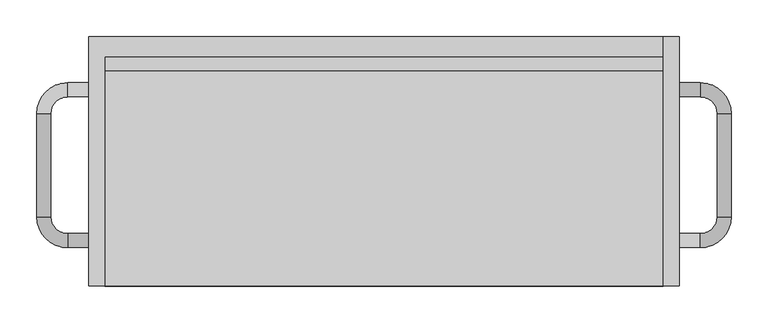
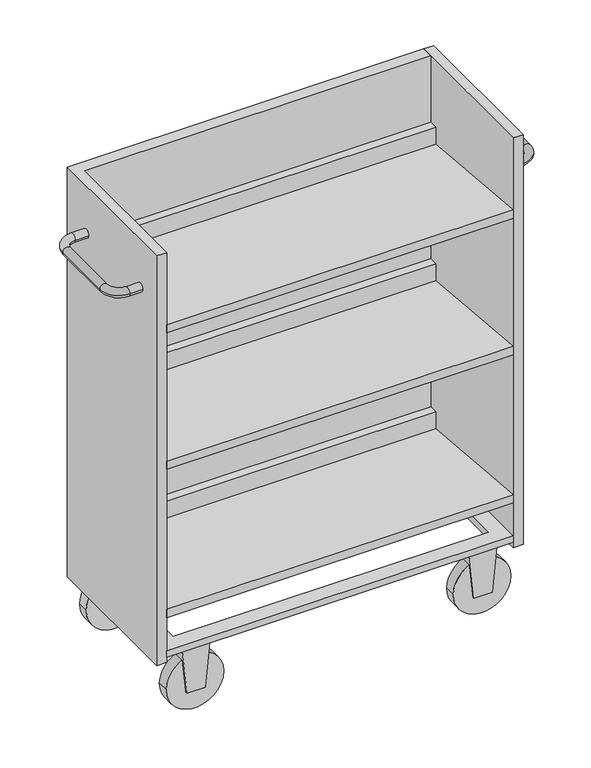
"""IFC4 building model written with IfcOpenShell, lengths in millimetres: furniture geometry, BK Library - Exlibris - Book Trolley Medium : BK Library - Exlibris - Book Trolley Medium."""

from ifc_helpers import new_model, si_unit, point, frame, frame_2d, origin, place, context, project, spatial, polyline, circle_curve, ellipse_curve, trimmed, segment, composite_curve, outline, extrude, faceted_brep, source, transform, mapped, element, save
from ifc_brep_helpers import plane_surface, cylinder_surface, revolved_surface, advanced_brep


def furniture_5349deb8(model_context):
    return source(origin(), model_context, "Body", "SolidModel", [
        extrude(outline(polyline([(-170.0000004, 235.2662928), (-170.0000004, 254.3381826), (123.9999896, 228.739766), (123.9999896, 268.0135567), (142.9999896, 268.0135567), (142.9999896, 208.0135567), (-170.0000004, 235.2662928)])), frame((-379.9999958, 0.0, 0.0), z_axis=(1.0, 0.0, 0.0), x_axis=(0.0, 1.0, 0.0)), (0.0, 0.0, 1.0), 759.9999767),
        extrude(outline(polyline([(-170.0000004, 895.2679976), (-170.0000004, 914.3405715), (123.9999896, 888.6189123), (123.9999896, 927.8840534), (142.9999896, 927.8840534), (142.9999896, 867.8840534), (-170.0000004, 895.2679976)])), frame((-379.9999958, 0.0, 0.0), z_axis=(1.0, 0.0, 0.0), x_axis=(0.0, 1.0, 0.0)), (0.0, 0.0, 1.0), 759.9999767),
        extrude(outline(polyline([(-170.0000004, 578.9679728), (-170.0000004, 598.0405467), (123.9999896, 572.3188875), (123.9999896, 611.5840286), (142.9999896, 611.5840286), (142.9999896, 551.5840286), (-170.0000004, 578.9679728)])), frame((-379.9999958, 0.0, 0.0), z_axis=(1.0, 0.0, 0.0), x_axis=(0.0, 1.0, 0.0)), (0.0, 0.0, 1.0), 759.9999767),
        extrude(outline(polyline([(-379.9999958, -170.0000004), (-379.9999958, 169.9999984), (379.9999958, 169.9999984), (379.9999958, -170.0000004), (-379.9999958, -170.0000004)]), holes=[polyline([(345.0000098, 135.0), (-345.0, 135.0), (-345.0, -135.000002), (345.0000098, -135.000002), (345.0000098, 135.0)])]), frame((0.0, 0.0, 143.5246151), z_axis=(0.0, 0.0, 1.0), x_axis=(1.0, 0.0, 0.0)), (0.0, 0.0, 1.0), 14.9999928),
        advanced_brep(
        [(401.9999994, 88.0399554, 972.0246135), (401.9999994, 107.0399554, 972.0246135), (430.8160051, 107.0399554, 972.0246135), (430.8160051, 88.0399554, 972.0246135), (453.8160051, 65.0399554, 972.0246135), (472.8160051, 65.0399554, 972.0246135), (472.8160051, -75.5438715, 972.0246135), (453.8160051, -75.5438715, 972.0246135), (430.8622357, -98.4976409, 972.0246135), (430.8622357, -117.4976409, 972.0246135), (401.9999994, -98.4976409, 972.0246135), (401.9999994, -117.4976409, 972.0246135)],
        [
            (0, 1, circle_curve(frame((401.9999994, 97.5399554, 972.0246135), z_axis=(-1.0, 0.0, 0.0), x_axis=(0.0, 1.0, 0.0)), 9.5)),
            (1, 0, circle_curve(frame((401.9999994, 97.5399554, 972.0246135), z_axis=(-1.0, 0.0, 0.0), x_axis=(0.0, 1.0, 0.0)), 9.5)),
            (1, 2),
            (2, 3, circle_curve(frame((430.8160051, 97.5399554, 972.0246135), z_axis=(-1.0, 0.0, 0.0), x_axis=(0.0, 1.0, 0.0)), 9.5)),
            (3, 0),
            (3, 2, circle_curve(frame((430.8160051, 97.5399554, 972.0246135), z_axis=(-1.0, 0.0, 0.0), x_axis=(0.0, 1.0, 0.0)), 9.5)),
            (4, 3, circle_curve(frame((430.8160051, 65.0399554, 972.0246135), z_axis=(0.0, 0.0, 1.0), x_axis=(0.0, 1.0, 0.0)), 23.0)),
            (2, 5, circle_curve(frame((430.8160051, 65.0399554, 972.0246135), z_axis=(0.0, 0.0, -1.0), x_axis=(0.0, 1.0, 0.0)), 42.0)),
            (5, 4, circle_curve(frame((463.3160051, 65.0399554, 972.0246135), z_axis=(0.0, 1.0, 0.0), x_axis=(1.0, 0.0, 0.0)), 9.5)),
            (4, 5, circle_curve(frame((463.3160051, 65.0399554, 972.0246135), z_axis=(0.0, 1.0, 0.0), x_axis=(1.0, 0.0, 0.0)), 9.5)),
            (5, 6),
            (6, 7, circle_curve(frame((463.3160051, -75.5438715, 972.0246135), z_axis=(0.0, 1.0, 0.0), x_axis=(1.0, 0.0, 0.0)), 9.5)),
            (7, 4),
            (7, 6, circle_curve(frame((463.3160051, -75.5438715, 972.0246135), z_axis=(0.0, 1.0, 0.0), x_axis=(1.0, 0.0, 0.0)), 9.5)),
            (8, 7, circle_curve(frame((430.8622357, -75.5438715, 972.0246135), z_axis=(0.0, 0.0, 1.0), x_axis=(1.0, 0.0, 0.0)), 22.9537695)),
            (6, 9, circle_curve(frame((430.8622357, -75.5438715, 972.0246135), z_axis=(0.0, 0.0, -1.0), x_axis=(1.0, 0.0, 0.0)), 41.9537695)),
            (9, 8, circle_curve(frame((430.8622357, -107.9976409, 972.0246135), z_axis=(1.0, 0.0, 0.0), x_axis=(0.0, -1.0, 0.0)), 9.5)),
            (8, 9, circle_curve(frame((430.8622357, -107.9976409, 972.0246135), z_axis=(1.0, 0.0, 0.0), x_axis=(0.0, -1.0, 0.0)), 9.5)),
            (10, 11, circle_curve(frame((401.9999994, -107.9976409, 972.0246135), z_axis=(-1.0, 0.0, 0.0), x_axis=(0.0, -1.0, 0.0)), 9.5)),
            (11, 10, circle_curve(frame((401.9999994, -107.9976409, 972.0246135), z_axis=(-1.0, 0.0, 0.0), x_axis=(0.0, -1.0, 0.0)), 9.5)),
            (9, 11),
            (10, 8),
        ],
        [
            plane_surface(frame((401.9999994, 88.0399554, 45.0237324), z_axis=(-1.0, 0.0, 0.0), x_axis=(0.0, 0.0, 1.0))),
            cylinder_surface(frame((401.9999994, 97.5399554, 972.0246135), z_axis=(-1.0, 0.0, 0.0), x_axis=(0.0, 1.0, 0.0)), 9.5),
            revolved_surface(trimmed(ellipse_curve(frame((430.8160051, 97.5399554, 972.0246135), z_axis=(-1.0, 0.0, 0.0), x_axis=(0.0, 1.0, 0.0)), 9.5, 9.5), [point((430.8160051, 107.0399554, 972.0246135))], [point((430.8160051, 88.0399554, 972.0246135))], True, "CARTESIAN"), (430.8160051, 65.0399554, 45.0237324), (0.0, 0.0, -1.0)),
            revolved_surface(trimmed(ellipse_curve(frame((430.8160051, 97.5399554, 972.0246135), z_axis=(-1.0, 0.0, 0.0), x_axis=(0.0, 1.0, 0.0)), 9.5, 9.5), [point((430.8160051, 88.0399554, 972.0246135))], [point((430.8160051, 107.0399554, 972.0246135))], True, "CARTESIAN"), (430.8160051, 65.0399554, 45.0237324), (0.0, 0.0, -1.0)),
            cylinder_surface(frame((463.3160051, 65.0399554, 972.0246135), z_axis=(0.0, 1.0, 0.0), x_axis=(1.0, 0.0, 0.0)), 9.5),
            revolved_surface(trimmed(ellipse_curve(frame((463.3160051, -75.5438715, 972.0246135), z_axis=(0.0, 1.0, 0.0), x_axis=(1.0, 0.0, 0.0)), 9.5, 9.5), [point((472.8160051, -75.5438715, 972.0246135))], [point((453.8160051, -75.5438715, 972.0246135))], True, "CARTESIAN"), (430.8622357, -75.5438715, 45.0237324), (0.0, 0.0, -1.0)),
            revolved_surface(trimmed(ellipse_curve(frame((463.3160051, -75.5438715, 972.0246135), z_axis=(0.0, 1.0, 0.0), x_axis=(1.0, 0.0, 0.0)), 9.5, 9.5), [point((453.8160051, -75.5438715, 972.0246135))], [point((472.8160051, -75.5438715, 972.0246135))], True, "CARTESIAN"), (430.8622357, -75.5438715, 45.0237324), (0.0, 0.0, -1.0)),
            plane_surface(frame((401.9999994, -98.4976409, 45.0237324), z_axis=(-1.0, 0.0, 0.0), x_axis=(0.0, 0.0, 1.0))),
            cylinder_surface(frame((430.8622357, -107.9976409, 972.0246135), z_axis=(1.0, 0.0, 0.0), x_axis=(0.0, -1.0, 0.0)), 9.5),
        ],
        [
            (0, [[1, 2]]),
            (1, [[-2, 3, 4, 5]]),
            (1, [[-1, -5, 6, -3]]),
            (2, [[7, -4, 8, 9]]),
            (3, [[-8, -6, -7, 10]]),
            (4, [[-9, 11, 12, 13]]),
            (4, [[-10, -13, 14, -11]]),
            (5, [[15, -12, 16, 17]]),
            (6, [[-16, -14, -15, 18]]),
            (7, [[19, 20]]),
            (8, [[-17, 21, -19, 22]]),
            (8, [[-18, -22, -20, -21]]),
        ],
    ),
        advanced_brep(
        [(-401.9999994, 107.0399554, 972.0246135), (-401.9999994, 88.0399554, 972.0246135), (-430.8160051, 107.0399554, 972.0246135), (-430.8160051, 88.0399554, 972.0246135), (-453.8160051, 65.0399554, 972.0246135), (-472.8160051, 65.0399554, 972.0246135), (-472.8160051, -75.5438715, 972.0246135), (-453.8160051, -75.5438715, 972.0246135), (-430.8622357, -98.4976409, 972.0246135), (-430.8622357, -117.4976409, 972.0246135), (-401.9999994, -117.4976409, 972.0246135), (-401.9999994, -98.4976409, 972.0246135)],
        [
            (0, 1, circle_curve(frame((-401.9999994, 97.5399554, 972.0246135), z_axis=(1.0, 0.0, 0.0), x_axis=(0.0, -1.0, 0.0)), 9.5)),
            (1, 0, circle_curve(frame((-401.9999994, 97.5399554, 972.0246135), z_axis=(1.0, 0.0, 0.0), x_axis=(0.0, -1.0, 0.0)), 9.5)),
            (0, 2),
            (2, 3, circle_curve(frame((-430.8160051, 97.5399554, 972.0246135), z_axis=(1.0, 0.0, 0.0), x_axis=(0.0, -1.0, 0.0)), 9.5)),
            (3, 1),
            (3, 2, circle_curve(frame((-430.8160051, 97.5399554, 972.0246135), z_axis=(1.0, 0.0, 0.0), x_axis=(0.0, -1.0, 0.0)), 9.5)),
            (4, 3, circle_curve(frame((-430.8160051, 65.0399554, 972.0246135), z_axis=(0.0, 0.0, -1.0), x_axis=(0.0, 1.0, 0.0)), 23.0)),
            (2, 5, circle_curve(frame((-430.8160051, 65.0399554, 972.0246135), z_axis=(0.0, 0.0, 1.0), x_axis=(0.0, 1.0, 0.0)), 42.0)),
            (5, 4, circle_curve(frame((-463.3160051, 65.0399554, 972.0246135), z_axis=(0.0, 1.0, 0.0), x_axis=(1.0, 0.0, 0.0)), 9.5)),
            (4, 5, circle_curve(frame((-463.3160051, 65.0399554, 972.0246135), z_axis=(0.0, 1.0, 0.0), x_axis=(1.0, 0.0, 0.0)), 9.5)),
            (5, 6),
            (6, 7, circle_curve(frame((-463.3160051, -75.5438715, 972.0246135), z_axis=(0.0, 1.0, 0.0), x_axis=(1.0, 0.0, 0.0)), 9.5)),
            (7, 4),
            (7, 6, circle_curve(frame((-463.3160051, -75.5438715, 972.0246135), z_axis=(0.0, 1.0, 0.0), x_axis=(1.0, 0.0, 0.0)), 9.5)),
            (8, 7, circle_curve(frame((-430.8622357, -75.5438715, 972.0246135), z_axis=(0.0, 0.0, -1.0), x_axis=(-1.0, 0.0, 0.0)), 22.9537695)),
            (6, 9, circle_curve(frame((-430.8622357, -75.5438715, 972.0246135), z_axis=(0.0, 0.0, 1.0), x_axis=(-1.0, 0.0, 0.0)), 41.9537695)),
            (9, 8, circle_curve(frame((-430.8622357, -107.9976409, 972.0246135), z_axis=(-1.0, 0.0, 0.0), x_axis=(0.0, 1.0, 0.0)), 9.5)),
            (8, 9, circle_curve(frame((-430.8622357, -107.9976409, 972.0246135), z_axis=(-1.0, 0.0, 0.0), x_axis=(0.0, 1.0, 0.0)), 9.5)),
            (10, 11, circle_curve(frame((-401.9999994, -107.9976409, 972.0246135), z_axis=(1.0, 0.0, 0.0), x_axis=(0.0, 1.0, 0.0)), 9.5)),
            (11, 10, circle_curve(frame((-401.9999994, -107.9976409, 972.0246135), z_axis=(1.0, 0.0, 0.0), x_axis=(0.0, 1.0, 0.0)), 9.5)),
            (9, 10),
            (11, 8),
        ],
        [
            plane_surface(frame((-401.9999994, 88.0399554, 45.0237324), z_axis=(1.0, 0.0, 0.0), x_axis=(0.0, 0.0, 1.0))),
            cylinder_surface(frame((-401.9999994, 97.5399554, 972.0246135), z_axis=(1.0, 0.0, 0.0), x_axis=(0.0, -1.0, 0.0)), 9.5),
            revolved_surface(trimmed(ellipse_curve(frame((-430.8160051, 97.5399554, 972.0246135), z_axis=(1.0, 0.0, 0.0), x_axis=(0.0, -1.0, 0.0)), 9.5, 9.5), [point((-430.8160051, 107.0399554, 972.0246135))], [point((-430.8160051, 88.0399554, 972.0246135))], True, "CARTESIAN"), (-430.8160051, 65.0399554, 45.0237324), (0.0, 0.0, 1.0)),
            revolved_surface(trimmed(ellipse_curve(frame((-430.8160051, 97.5399554, 972.0246135), z_axis=(1.0, 0.0, 0.0), x_axis=(0.0, -1.0, 0.0)), 9.5, 9.5), [point((-430.8160051, 88.0399554, 972.0246135))], [point((-430.8160051, 107.0399554, 972.0246135))], True, "CARTESIAN"), (-430.8160051, 65.0399554, 45.0237324), (0.0, 0.0, 1.0)),
            cylinder_surface(frame((-463.3160051, 65.0399554, 972.0246135), z_axis=(0.0, 1.0, 0.0), x_axis=(1.0, 0.0, 0.0)), 9.5),
            revolved_surface(trimmed(ellipse_curve(frame((-463.3160051, -75.5438715, 972.0246135), z_axis=(0.0, 1.0, 0.0), x_axis=(1.0, 0.0, 0.0)), 9.5, 9.5), [point((-472.8160051, -75.5438715, 972.0246135))], [point((-453.8160051, -75.5438715, 972.0246135))], True, "CARTESIAN"), (-430.8622357, -75.5438715, 45.0237324), (0.0, 0.0, 1.0)),
            revolved_surface(trimmed(ellipse_curve(frame((-463.3160051, -75.5438715, 972.0246135), z_axis=(0.0, 1.0, 0.0), x_axis=(1.0, 0.0, 0.0)), 9.5, 9.5), [point((-453.8160051, -75.5438715, 972.0246135))], [point((-472.8160051, -75.5438715, 972.0246135))], True, "CARTESIAN"), (-430.8622357, -75.5438715, 45.0237324), (0.0, 0.0, 1.0)),
            plane_surface(frame((-401.9999994, -98.4976409, 45.0237324), z_axis=(1.0, 0.0, 0.0), x_axis=(0.0, 0.0, 1.0))),
            cylinder_surface(frame((-430.8622357, -107.9976409, 972.0246135), z_axis=(-1.0, 0.0, 0.0), x_axis=(0.0, 1.0, 0.0)), 9.5),
        ],
        [
            (0, [[1, 2]]),
            (1, [[-1, 3, 4, 5]]),
            (1, [[-2, -5, 6, -3]]),
            (2, [[7, -4, 8, 9]]),
            (3, [[-8, -6, -7, 10]]),
            (4, [[-9, 11, 12, 13]]),
            (4, [[-10, -13, 14, -11]]),
            (5, [[15, -12, 16, 17]]),
            (6, [[-16, -14, -15, 18]]),
            (7, [[19, 20]]),
            (8, [[-17, 21, -20, 22]]),
            (8, [[-18, -22, -19, -21]]),
        ],
    ),
        extrude(outline(polyline([(379.9999958, -170.0000004), (379.9999958, 169.9999984), (401.9999994, 169.9999984), (401.9999994, -170.0000004), (379.9999958, -170.0000004)])), frame((0.0, 0.0, 131.5246135), z_axis=(0.0, 0.0, 1.0), x_axis=(1.0, 0.0, 0.0)), (0.0, 0.0, 1.0), 950.0000072),
        faceted_brep([(-379.9999958, -170.0000004, 131.5246135), (-379.9999958, 169.9999984, 131.5246135), (-379.9999958, 169.9999984, 208.0135567), (-379.9999958, 142.9999896, 208.0135567), (-379.9999958, 142.9999896, 1081.5246208), (-379.9999958, -170.0000004, 1081.5246208), (-401.9999994, -170.0000004, 131.5246135), (-401.9999994, -170.0000004, 1081.5246208), (-401.9999994, 169.9999984, 1081.5246208), (-401.9999994, 169.9999984, 131.5246135), (379.999981, 169.9999984, 1081.5246099), (379.999981, 169.9999984, 208.0135567), (379.999981, 142.9999896, 1081.5246208), (379.999981, 142.9999896, 208.0135567)], [[[0, 1, 2, 3, 4, 5]], [[6, 7, 8, 9]], [[1, 0, 6, 9]], [[9, 8, 10, 11, 2, 1]], [[10, 8, 7, 5, 4, 12]], [[0, 5, 7, 6]], [[10, 12, 13, 11]], [[11, 13, 3, 2]], [[13, 12, 4, 3]]]),
        extrude(outline(polyline([(143.5246151, 284.7814982), (43.1604333, 294.8179132), (43.1604333, 334.9635823), (143.5246151, 344.9999973), (143.5246151, 284.7814982)])), frame((0.0, -168.1870887, 0.0), z_axis=(0.0, 1.0, 0.0), x_axis=(0.0, 0.0, 1.0)), (0.0, 0.0, 1.0), 33.1870868),
        extrude(outline(composite_curve([segment(trimmed(circle_curve(frame_2d((63.2332701, 314.8907432)), 63.2332701), [point((63.2332701, 251.6574731))], [point((63.2332701, 378.1240133))], False, "CARTESIAN"), True, "CONTINUOUS"), segment(trimmed(circle_curve(frame_2d((63.2332701, 314.8907432)), 63.2332701), [point((63.2332701, 378.1240133))], [point((63.2332701, 251.6574731))], False, "CARTESIAN"), True, "CONTINUOUS")], self_intersect=False)), frame((0.0, -164.0387046, 0.0), z_axis=(0.0, 1.0, 0.0), x_axis=(0.0, 0.0, 1.0)), (0.0, 0.0, 1.0), 24.8903185),
        extrude(outline(polyline([(143.5246151, 284.7814982), (43.1604333, 294.8179132), (43.1604333, 334.9635823), (143.5246151, 344.9999973), (143.5246151, 284.7814982)])), frame((0.0, 135.000002, 0.0), z_axis=(0.0, 1.0, 0.0), x_axis=(0.0, 0.0, 1.0)), (0.0, 0.0, 1.0), 33.1870868),
        extrude(outline(composite_curve([segment(trimmed(circle_curve(frame_2d((63.2332701, 314.8907432)), 63.2332701), [point((63.2332701, 251.6574731))], [point((63.2332701, 378.1240133))], False, "CARTESIAN"), True, "CONTINUOUS"), segment(trimmed(circle_curve(frame_2d((63.2332701, 314.8907432)), 63.2332701), [point((63.2332701, 378.1240133))], [point((63.2332701, 251.6574731))], False, "CARTESIAN"), True, "CONTINUOUS")], self_intersect=False)), frame((0.0, 139.1483861, 0.0), z_axis=(0.0, 1.0, 0.0), x_axis=(0.0, 0.0, 1.0)), (0.0, 0.0, 1.0), 24.8903185),
        extrude(outline(polyline([(143.5246151, -284.7814982), (143.5246151, -344.9999973), (43.1604333, -334.9635823), (43.1604333, -294.8179132), (143.5246151, -284.7814982)])), frame((0.0, 135.000002, 0.0), z_axis=(0.0, 1.0, 0.0), x_axis=(0.0, 0.0, 1.0)), (0.0, 0.0, 1.0), 33.1870868),
        extrude(outline(composite_curve([segment(trimmed(circle_curve(frame_2d((63.2332701, -314.8907432)), 63.2332701), [point((63.2332701, -251.6574731))], [point((63.2332701, -378.1240133))], False, "CARTESIAN"), True, "CONTINUOUS"), segment(trimmed(circle_curve(frame_2d((63.2332701, -314.8907432)), 63.2332701), [point((63.2332701, -378.1240133))], [point((63.2332701, -251.6574731))], False, "CARTESIAN"), True, "CONTINUOUS")], self_intersect=False)), frame((0.0, 139.1483861, 0.0), z_axis=(0.0, 1.0, 0.0), x_axis=(0.0, 0.0, 1.0)), (0.0, 0.0, 1.0), 24.8903185),
        extrude(outline(polyline([(143.5246151, -284.7814982), (143.5246151, -344.9999973), (43.1604333, -334.9635823), (43.1604333, -294.8179132), (143.5246151, -284.7814982)])), frame((0.0, -168.1870887, 0.0), z_axis=(0.0, 1.0, 0.0), x_axis=(0.0, 0.0, 1.0)), (0.0, 0.0, 1.0), 33.1870868),
        extrude(outline(composite_curve([segment(trimmed(circle_curve(frame_2d((63.2332701, -314.8907432)), 63.2332701), [point((63.2332701, -251.6574731))], [point((63.2332701, -378.1240133))], False, "CARTESIAN"), True, "CONTINUOUS"), segment(trimmed(circle_curve(frame_2d((63.2332701, -314.8907432)), 63.2332701), [point((63.2332701, -378.1240133))], [point((63.2332701, -251.6574731))], False, "CARTESIAN"), True, "CONTINUOUS")], self_intersect=False)), frame((0.0, -164.0387046, 0.0), z_axis=(0.0, 1.0, 0.0), x_axis=(0.0, 0.0, 1.0)), (0.0, 0.0, 1.0), 24.8903185),
    ])


if __name__ == "__main__":
    model = new_model("IFC4")
    model_context = context("Model", 3, world=origin())
    ifc_project = project(units=[si_unit("LENGTHUNIT", "METRE", prefix="MILLI")], contexts=[model_context])
    site = spatial("IfcSite", under=ifc_project)
    building = spatial("IfcBuilding", under=site)
    placement = place(None, origin())
    furniture_shape = furniture_5349deb8(model_context)
    element("IfcFurniture", 1, ObjectType="BK Library - Exlibris - Book Trolley Medium : BK Library - Exlibris - Book Trolley Medium", at=placement, inside=building, context=model_context, shape_type="MappedRepresentation", body=[
        mapped(furniture_shape, transform((0.0, 0.0, 0.0), x_axis=(1.0, 0.0, 0.0), y_axis=(0.0, 1.0, 0.0), z_axis=(0.0, 0.0, 1.0))),
    ])
    save(model, "model.ifc")
